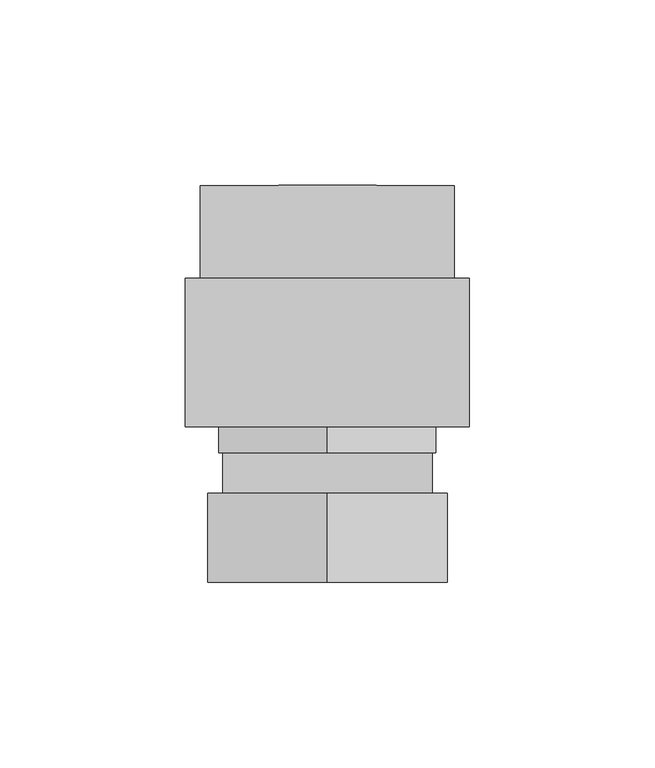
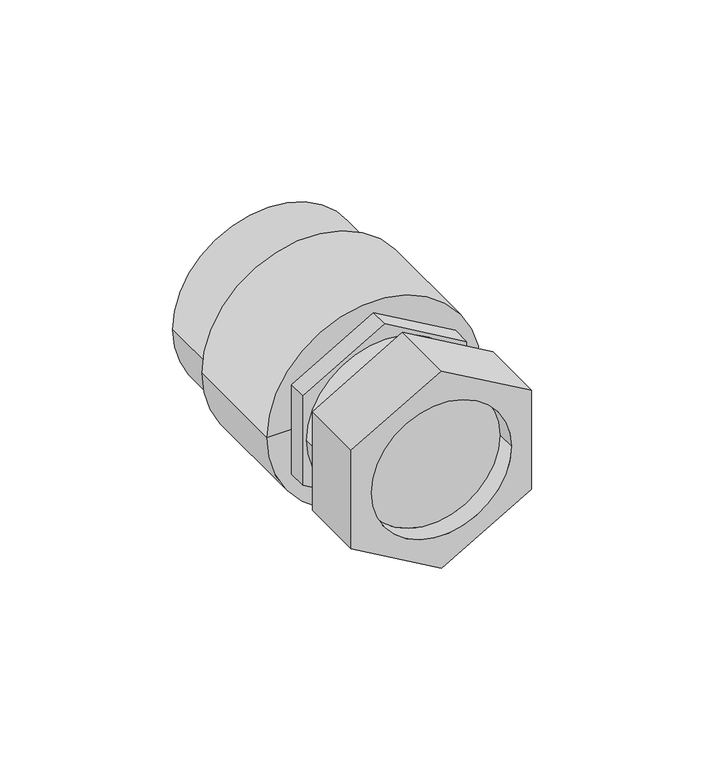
"""IFC4 building model written with IfcOpenShell, lengths in millimetres: pipe fitting geometry, NIRON RED termofusion roscado racor loco : Estándar."""

from ifc_helpers import new_model, si_unit, point, frame, origin, origin_2d, place, context, project, spatial, polyline, circle_curve, trimmed, segment, composite_curve, outline, extrude, source, transform, mapped, element, save
from ifc_brep_helpers import plane_surface, cylinder_surface, revolved_surface, advanced_brep


def pipe_fitting_dadce4b6(model_context):
    return source(origin(), model_context, "Body", "SolidModel", [
        advanced_brep(
        [(32.25, 9.0, -18.6195462), (32.25, 9.0, 18.6195462), (0.0, 9.0, 37.2390924), (-32.25, 9.0, 18.6195462), (-32.25, 9.0, -18.6195462), (0.0, 9.0, -37.2390924), (25.0, 9.0, 0.0), (-25.0, 9.0, 0.0), (32.25, 33.0, -18.6195462), (0.0, 33.0, -37.2390924), (-32.25, 33.0, -18.6195462), (-32.25, 33.0, 18.6195462), (0.0, 33.0, 37.2390924), (32.25, 33.0, 18.6195462), (-25.0, 16.0570795, 0.0), (25.0, 16.0570795, 0.0)],
        [
            (0, 1),
            (1, 2),
            (2, 3),
            (3, 4),
            (4, 5),
            (5, 0),
            (6, 7, circle_curve(frame((0.0, 9.0, 0.0), z_axis=(0.0, 1.0, 0.0), x_axis=(1.0, 0.0, 0.0)), 25.0)),
            (7, 6, circle_curve(frame((0.0, 9.0, 0.0), z_axis=(0.0, 1.0, 0.0), x_axis=(1.0, 0.0, 0.0)), 25.0)),
            (8, 9),
            (9, 10),
            (10, 11),
            (11, 12),
            (12, 13),
            (13, 8),
            (0, 8),
            (13, 1),
            (12, 2),
            (11, 3),
            (10, 4),
            (9, 5),
            (14, 15, circle_curve(frame((0.0, 16.0570795, 0.0), z_axis=(0.0, -1.0, 0.0), x_axis=(1.0, 0.0, 0.0)), 25.0)),
            (15, 14, circle_curve(frame((0.0, 16.0570795, 0.0), z_axis=(0.0, -1.0, 0.0), x_axis=(1.0, 0.0, 0.0)), 25.0)),
            (14, 7),
            (6, 15),
        ],
        [
            plane_surface(frame((0.0, 9.0, 0.0), z_axis=(0.0, -1.0, 0.0), x_axis=(0.0, 0.0, 1.0))),
            plane_surface(frame((0.0, 33.0, 0.0), z_axis=(0.0, 1.0, 0.0), x_axis=(0.0, 0.0, 1.0))),
            plane_surface(frame((32.25, 9.0, -18.6195462), z_axis=(1.0, 0.0, 0.0), x_axis=(0.0, 1.0, 0.0))),
            plane_surface(frame((32.25, 9.0, 18.6195462), z_axis=(0.4999999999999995, 0.0, 0.866025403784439), x_axis=(0.0, 1.0, 0.0))),
            plane_surface(frame((0.0, 9.0, 37.2390924), z_axis=(-0.4999999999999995, 0.0, 0.866025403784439), x_axis=(0.0, 1.0, 0.0))),
            plane_surface(frame((-32.25, 9.0, 18.6195462), z_axis=(-1.0, 0.0, 0.0), x_axis=(0.0, 1.0, 0.0))),
            plane_surface(frame((-32.25, 9.0, -18.6195462), z_axis=(-0.49999999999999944, 0.0, -0.866025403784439), x_axis=(0.0, 1.0, 0.0))),
            plane_surface(frame((0.0, 9.0, -37.2390924), z_axis=(0.4999999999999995, 0.0, -0.8660254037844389), x_axis=(0.0, 1.0, 0.0))),
            plane_surface(frame((25.0, 16.0570795, 0.0), z_axis=(0.0, -1.0, 0.0), x_axis=(0.0, 0.0, -1.0))),
            revolved_surface(polyline([(25.0, 9.0, 0.0), (25.0, 16.0570795, 0.0)]), (0.0, 16.0570795, 0.0), (0.0, -1.0, 0.0)),
        ],
        [
            (0, [[1, 2, 3, 4, 5, 6], [7, 8]]),
            (1, [[9, 10, 11, 12, 13, 14]]),
            (2, [[-1, 15, -14, 16]]),
            (3, [[-2, -16, -13, 17]]),
            (4, [[-3, -17, -12, 18]]),
            (5, [[-4, -18, -11, 19]]),
            (6, [[-5, -19, -10, 20]]),
            (7, [[-6, -20, -9, -15]]),
            (8, [[21, 22]]),
            (9, [[-21, 23, -7, 24]]),
            (9, [[-22, -24, -8, -23]]),
        ],
    ),
        extrude(outline(polyline([(-16.8874954, 29.25), (16.8874954, 29.25), (33.7749907, 0.0), (16.8874954, -29.25), (-16.8874954, -29.25), (-33.7749907, 0.0), (-16.8874954, 29.25)])), frame((0.0, 44.0, 0.0), z_axis=(0.0, 1.0, 0.0), x_axis=(0.0, 0.0, 1.0)), (0.0, 0.0, 1.0), 7.0),
        extrude(outline(composite_curve([segment(trimmed(circle_curve(origin_2d(), 28.25), [point((0.0, -28.25))], [point((0.0, 28.25))], False, "CARTESIAN"), True, "CONTINUOUS"), segment(trimmed(circle_curve(origin_2d(), 28.25), [point((0.0, 28.25))], [point((0.0, -28.25))], False, "CARTESIAN"), True, "CONTINUOUS")], self_intersect=False)), frame((0.0, 33.0, 0.0), z_axis=(0.0, 1.0, 0.0), x_axis=(0.0, 0.0, 1.0)), (0.0, 0.0, 1.0), 11.0),
        advanced_brep(
        [(34.25, 116.0, 0.0), (-34.25, 116.0, 0.0), (0.0, 116.0, 0.0), (38.25, 51.0, 0.0), (-38.25, 51.0, 0.0), (-38.25, 91.0, 0.0), (38.25, 91.0, 0.0), (0.0, 51.0, 0.0), (34.25, 91.0, 0.0), (-34.25, 91.0, 0.0)],
        [
            (0, 1, circle_curve(frame((0.0, 116.0, 0.0), z_axis=(0.0, 1.0, 0.0), x_axis=(-1.0, 0.0, 0.0)), 34.25)),
            (1, 2),
            (2, 0),
            (1, 0, circle_curve(frame((0.0, 116.0, 0.0), z_axis=(0.0, 1.0, 0.0), x_axis=(-1.0, 0.0, 0.0)), 34.25)),
            (3, 4, circle_curve(frame((0.0, 51.0, 0.0), z_axis=(0.0, 1.0, 0.0), x_axis=(-1.0, 0.0, 0.0)), 38.25)),
            (4, 5),
            (5, 6, circle_curve(frame((0.0, 91.0, 0.0), z_axis=(0.0, -1.0, 0.0), x_axis=(-1.0, 0.0, 0.0)), 38.25)),
            (6, 3),
            (4, 3, circle_curve(frame((0.0, 51.0, 0.0), z_axis=(0.0, 1.0, 0.0), x_axis=(-1.0, 0.0, 0.0)), 38.25)),
            (6, 5, circle_curve(frame((0.0, 91.0, 0.0), z_axis=(0.0, -1.0, 0.0), x_axis=(-1.0, 0.0, 0.0)), 38.25)),
            (7, 4),
            (3, 7),
            (8, 9, circle_curve(frame((0.0, 91.0, 0.0), z_axis=(0.0, 1.0, 0.0), x_axis=(-1.0, 0.0, 0.0)), 34.25)),
            (9, 1),
            (0, 8),
            (9, 8, circle_curve(frame((0.0, 91.0, 0.0), z_axis=(0.0, 1.0, 0.0), x_axis=(-1.0, 0.0, 0.0)), 34.25)),
            (5, 9),
            (8, 6),
        ],
        [
            plane_surface(frame((0.0, 116.0, 0.0), z_axis=(0.0, 1.0, 0.0), x_axis=(-1.0, 0.0, 0.0))),
            cylinder_surface(frame((0.0, 126.0, 0.0), z_axis=(0.0, -1.0, 0.0), x_axis=(-1.0, 0.0, 0.0)), 38.25),
            plane_surface(frame((0.0, 51.0, 0.0), z_axis=(0.0, -1.0, 0.0), x_axis=(-1.0, 0.0, 0.0))),
            cylinder_surface(frame((0.0, 126.0, 0.0), z_axis=(0.0, -1.0, 0.0), x_axis=(-1.0, 0.0, 0.0)), 34.25),
            plane_surface(frame((0.0, 91.0, 0.0), z_axis=(0.0, 1.0, 0.0), x_axis=(-1.0, 0.0, 0.0))),
        ],
        [
            (0, [[1, 2, 3]]),
            (0, [[4, -3, -2]]),
            (1, [[5, 6, 7, 8]]),
            (1, [[9, -8, 10, -6]]),
            (2, [[11, -5, 12]]),
            (2, [[-12, -9, -11]]),
            (3, [[13, 14, -1, 15]]),
            (3, [[16, -15, -4, -14]]),
            (4, [[-7, 17, -13, 18]]),
            (4, [[-10, -18, -16, -17]]),
        ],
    ),
    ])


if __name__ == "__main__":
    model = new_model("IFC4")
    model_context = context("Model", 3, world=origin())
    ifc_project = project(units=[si_unit("LENGTHUNIT", "METRE", prefix="MILLI")], contexts=[model_context])
    site = spatial("IfcSite", under=ifc_project)
    building = spatial("IfcBuilding", under=site)
    placement = place(None, origin())
    pipe_fitting_shape = pipe_fitting_dadce4b6(model_context)
    element("IfcPipeFitting", 1, ObjectType="NIRON RED termofusion roscado racor loco : Estándar", at=placement, inside=building, context=model_context, shape_type="MappedRepresentation", body=[
        mapped(pipe_fitting_shape, transform((0.0, 0.0, 0.0), x_axis=(1.0, 0.0, 0.0), y_axis=(0.0, 1.0, 0.0), z_axis=(0.0, 0.0, 1.0))),
    ])
    save(model, "model.ifc")
